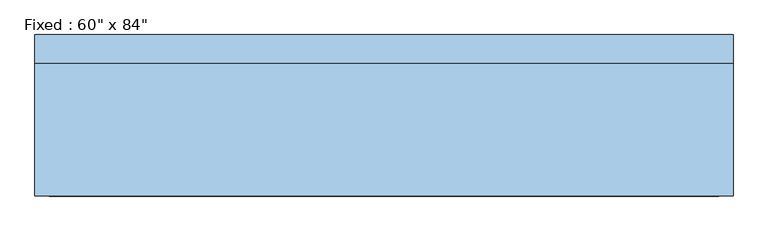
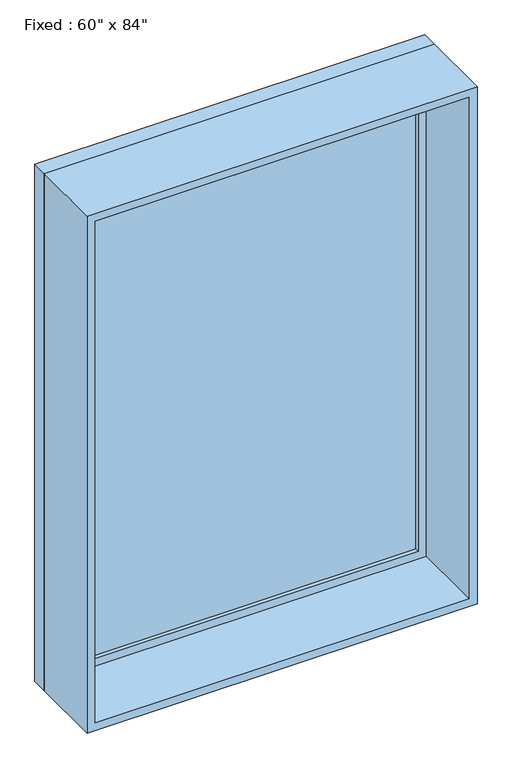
"""IFC4 building model written with IfcOpenShell, lengths in millimetres: window geometry."""

from ifc_helpers import new_model, si_unit, frame, origin, place, context, project, spatial, polyline, outline, extrude, source, transform, mapped, element, save


def window_795f97d9(model_context):
    return source(origin(), model_context, "Body", "SweptSolid", [
        extrude(outline(polyline([(660.4, 128.5875), (-736.6, 128.5875), (-736.6, 141.2875), (660.4, 141.2875), (660.4, 128.5875)])), frame((0.0, 0.0, 368.3), z_axis=(0.0, 0.0, 1.0), x_axis=(1.0, 0.0, 0.0)), (0.0, 0.0, 1.0), 2006.6),
        extrude(outline(polyline([(2419.35, -781.05), (323.85, -781.05), (323.85, 704.85), (2419.35, 704.85), (2419.35, -781.05)]), holes=[polyline([(2374.9, -736.6), (2374.9, 660.4), (368.3, 660.4), (368.3, -736.6), (2374.9, -736.6)])]), frame((0.0, 112.7125, 0.0), z_axis=(0.0, 1.0, 0.0), x_axis=(0.0, 0.0, 1.0)), (0.0, 0.0, 1.0), 44.45),
        extrude(outline(polyline([(2438.4, -800.1), (304.8, -800.1), (304.8, 723.9), (2438.4, 723.9), (2438.4, -800.1)]), holes=[polyline([(2406.65, -768.35), (2406.65, 692.15), (336.55, 692.15), (336.55, -768.35), (2406.65, -768.35)])]), frame((0.0, -176.2125, 0.0), z_axis=(0.0, 1.0, 0.0), x_axis=(0.0, 0.0, 1.0)), (0.0, 0.0, 1.0), 288.925),
        extrude(outline(polyline([(2438.4, 723.9), (2438.4, -800.1), (304.8, -800.1), (304.8, 723.9), (2438.4, 723.9)]), holes=[polyline([(2419.35, 704.85), (323.85, 704.85), (323.85, -781.05), (2419.35, -781.05), (2419.35, 704.85)])]), frame((0.0, 112.7125, 0.0), z_axis=(0.0, 1.0, 0.0), x_axis=(0.0, 0.0, 1.0)), (0.0, 0.0, 1.0), 63.5),
    ])


if __name__ == "__main__":
    model = new_model("IFC4")
    model_context = context("Model", 3, world=origin())
    ifc_project = project(units=[si_unit("LENGTHUNIT", "METRE", prefix="MILLI")], contexts=[model_context])
    site = spatial("IfcSite", under=ifc_project)
    building = spatial("IfcBuilding", under=site)
    placement = place(None, origin())
    window_shape = window_795f97d9(model_context)
    element("IfcWindow", 1, ObjectType="Fixed : 60\" x 84\"", at=placement, inside=building, context=model_context, shape_type="MappedRepresentation", body=[
        mapped(window_shape, transform((0.0, 0.0, 0.0), x_axis=(1.0, 0.0, 0.0), y_axis=(0.0, 1.0, 0.0), z_axis=(0.0, 0.0, 1.0))),
    ])
    save(model, "model.ifc")
